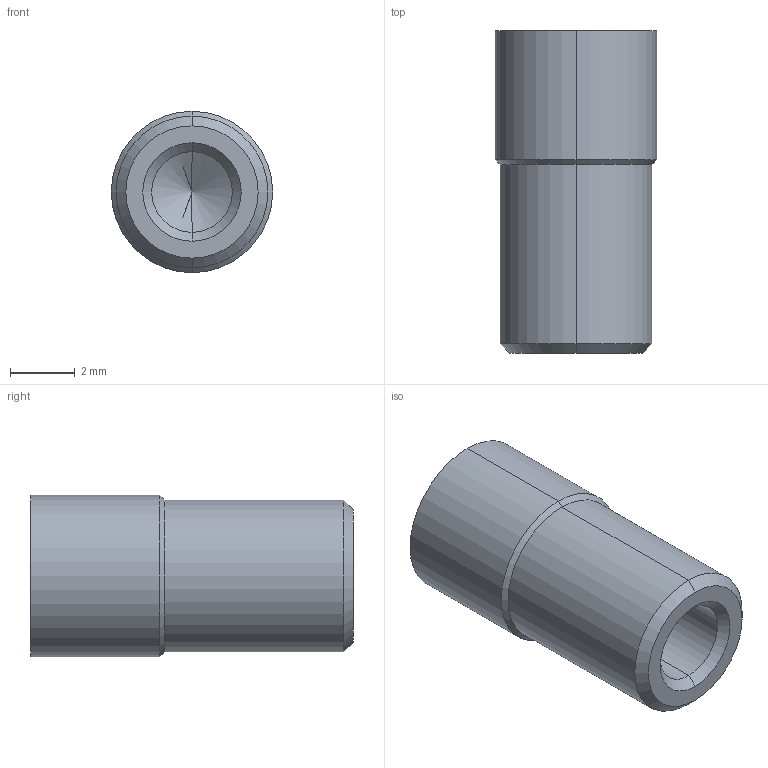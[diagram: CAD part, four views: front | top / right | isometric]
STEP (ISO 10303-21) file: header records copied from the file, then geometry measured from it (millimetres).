
FILE_DESCRIPTION (( 'STEP AP203' ), '1' );
FILE_NAME ('DAP-5N.STEP', '2016-01-11T15:19:30', ( 'Balzi' ), ( '' ), 'SwSTEP 2.0', 'SolidWorks 2015', '' );
FILE_SCHEMA (( 'CONFIG_CONTROL_DESIGN' ));
Length unit declared in the file: millimetre
Products named in the file (1): DAP-5N
Bounding box: 5 x 10 x 5 mm (x, y, z)
Volume: 145.1 mm3; surface area: 250.8 mm2
Topology: 1 solids, 1 shells, 96 faces, 266 edges, 173 vertices
Faces by surface type: cylinder 48, plane 40, cone 8
Entity records: 3153 total; most frequent: DIRECTION 558, CARTESIAN_POINT 534, ORIENTED_EDGE 528, EDGE_CURVE 264, AXIS2_PLACEMENT_3D 197, VERTEX_POINT 173, VECTOR 164, LINE 164
